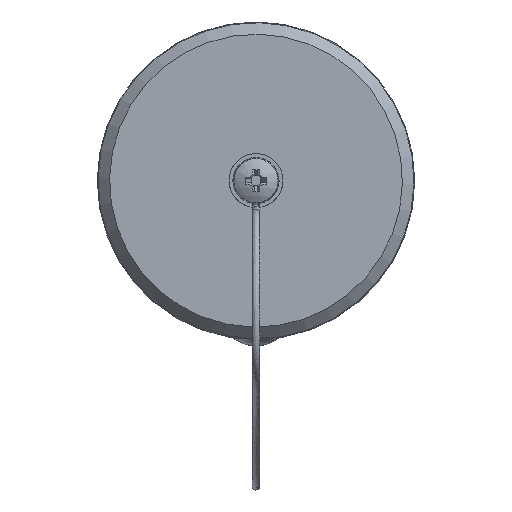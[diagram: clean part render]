
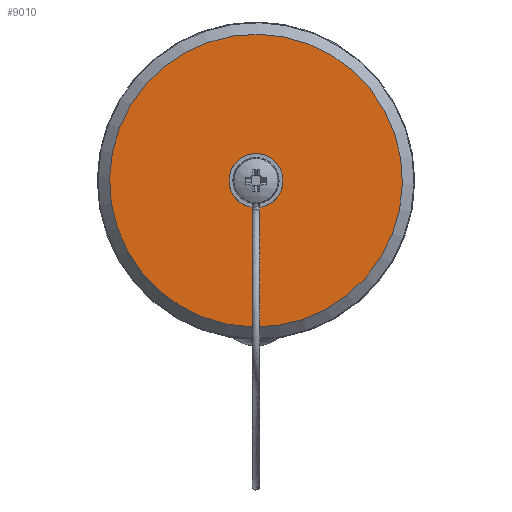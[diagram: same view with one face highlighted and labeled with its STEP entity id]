
A CAD part, top view. The second image highlights one B-rep face of the part: STEP entity #9010.
In plain terms, the highlighted planar face has unit normal (0, 0, 1).
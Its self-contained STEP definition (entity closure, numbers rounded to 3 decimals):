
#738 = AXIS2_PLACEMENT_3D ( 'NONE', #27476, #4897, #13894 ) ;
#997 = CARTESIAN_POINT ( 'NONE',  ( -0.364, -3.541, 45.5 ) ) ;
#1237 = CIRCLE ( 'NONE', #13618, 3.5 ) ;
#1535 = CARTESIAN_POINT ( 'NONE',  ( 14.807, 11.906, 45.5 ) ) ;
#1694 = VERTEX_POINT ( 'NONE', #8271 ) ;
#3173 = CARTESIAN_POINT ( 'NONE',  ( 0.409, -3.476, 45.5 ) ) ;
#4897 = DIRECTION ( 'NONE',  ( 0., 0., -1. ) ) ;
#5475 = CARTESIAN_POINT ( 'NONE',  ( 0.364, -3.542, 45.5 ) ) ;
#5487 = B_SPLINE_CURVE_WITH_KNOTS ( 'NONE', 3,
 ( #3173, #5475, #28080, #23724, #10022, #12385, #14480, #25906, #997, #28291 ),
 .UNSPECIFIED., .F., .F.,
 ( 4, 2, 2, 2, 4 ),
 ( 0., 0.001, 0.001, 0.001, 0.001 ),
 .UNSPECIFIED. ) ;
#5797 = FACE_BOUND ( 'NONE', #23638, .T. ) ;
#7551 = CIRCLE ( 'NONE', #738, 19. ) ;
#7969 = EDGE_CURVE ( 'NONE', #8963, #1694, #1237, .T. ) ;
#8271 = CARTESIAN_POINT ( 'NONE',  ( 0.409, -3.476, 45.5 ) ) ;
#8805 = ORIENTED_EDGE ( 'NONE', *, *, #12099, .F. ) ;
#8963 = VERTEX_POINT ( 'NONE', #13700 ) ;
#9010 = ADVANCED_FACE ( 'NONE', ( #5797, #14334 ), #18072, .F. ) ;
#10022 = CARTESIAN_POINT ( 'NONE',  ( 0.079, -3.688, 45.5 ) ) ;
#12099 = EDGE_CURVE ( 'NONE', #29053, #29053, #7551, .T. ) ;
#12385 = CARTESIAN_POINT ( 'NONE',  ( -0.08, -3.69, 45.5 ) ) ;
#12883 = ORIENTED_EDGE ( 'NONE', *, *, #7969, .T. ) ;
#13618 = AXIS2_PLACEMENT_3D ( 'NONE', #29189, #22446, #24723 ) ;
#13700 = CARTESIAN_POINT ( 'NONE',  ( -0.41, -3.476, 45.5 ) ) ;
#13794 = CARTESIAN_POINT ( 'NONE',  ( 0., 0., 45.5 ) ) ;
#13894 = DIRECTION ( 'NONE',  ( 0.779, 0.627, 0. ) ) ;
#14334 = FACE_OUTER_BOUND ( 'NONE', #19810, .T. ) ;
#14480 = CARTESIAN_POINT ( 'NONE',  ( -0.16, -3.67, 45.5 ) ) ;
#15975 = DIRECTION ( 'NONE',  ( 0., -1., 0. ) ) ;
#18072 = PLANE ( 'NONE',  #21055 ) ;
#19810 = EDGE_LOOP ( 'NONE', ( #8805 ) ) ;
#21055 = AXIS2_PLACEMENT_3D ( 'NONE', #13794, #27001, #15975 ) ;
#22112 = EDGE_CURVE ( 'NONE', #1694, #8963, #5487, .T. ) ;
#22446 = DIRECTION ( 'NONE',  ( 0., 0., -1. ) ) ;
#23638 = EDGE_LOOP ( 'NONE', ( #12883, #26376 ) ) ;
#23724 = CARTESIAN_POINT ( 'NONE',  ( 0.159, -3.669, 45.5 ) ) ;
#24723 = DIRECTION ( 'NONE',  ( 0.141, 0.99, 0. ) ) ;
#25906 = CARTESIAN_POINT ( 'NONE',  ( -0.302, -3.595, 45.5 ) ) ;
#26376 = ORIENTED_EDGE ( 'NONE', *, *, #22112, .T. ) ;
#27001 = DIRECTION ( 'NONE',  ( 0., 0., -1. ) ) ;
#27476 = CARTESIAN_POINT ( 'NONE',  ( 0., 0., 45.5 ) ) ;
#28080 = CARTESIAN_POINT ( 'NONE',  ( 0.302, -3.596, 45.5 ) ) ;
#28291 = CARTESIAN_POINT ( 'NONE',  ( -0.41, -3.476, 45.5 ) ) ;
#29053 = VERTEX_POINT ( 'NONE', #1535 ) ;
#29189 = CARTESIAN_POINT ( 'NONE',  ( 0., 0., 45.5 ) ) ;
